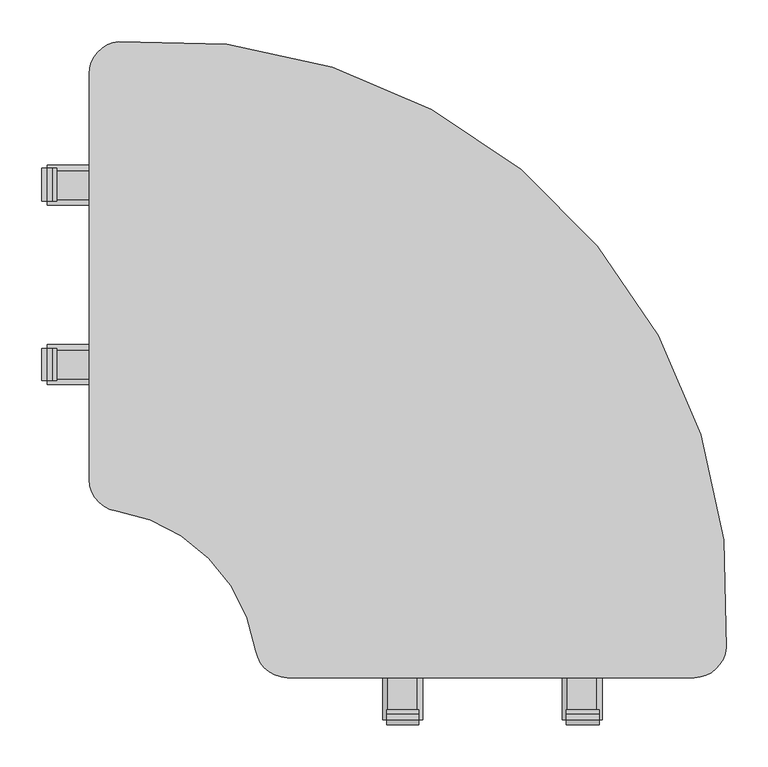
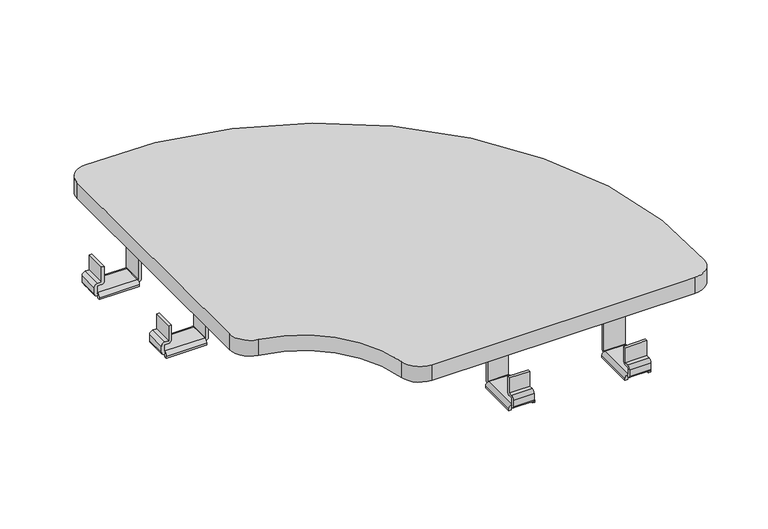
"""IFC4 building model written with IfcOpenShell, lengths in millimetres: furniture geometry, Krug-Solis-Conecting_Top-Corner : SOL4-LKCRR90."""

from ifc_helpers import new_model, si_unit, point, frame, frame_2d, origin, place, context, project, spatial, polyline, circle_curve, trimmed, segment, composite_curve, outline, extrude, source, transform, mapped, element, save


def furniture_27ac3e44(model_context):
    return source(origin(), model_context, "Body", "SweptSolid", [
        extrude(outline(composite_curve([segment(trimmed(circle_curve(frame_2d((-290.2546124, 392.0168643)), 38.1), [point((-328.3546124, 392.0168643))], [point((-293.0372477, 430.0151135))], False, "CARTESIAN"), True, "CONTINUOUS"), segment(trimmed(circle_curve(frame_2d((-243.6420186, -244.5009685)), 676.3222853), [point((-293.0372477, 430.0151135))], [point((430.9401025, -292.9859709))], False, "CARTESIAN"), True, "CONTINUOUS"), segment(trimmed(circle_curve(frame_2d((392.9381331, -290.2546124)), 38.1), [point((430.9401025, -292.9859709))], [point((392.9381331, -328.3546124))], False, "CARTESIAN"), True, "CONTINUOUS"), segment(polyline([(392.9381331, -328.3546124), (-91.9505063, -328.3546124)]), True, "CONTINUOUS"), segment(trimmed(circle_curve(frame_2d((-91.9505063, -290.2546124)), 38.1), [point((-91.9505063, -328.3546124))], [point((-129.5651354, -296.3167633))], False, "CARTESIAN"), True, "CONTINUOUS"), segment(trimmed(circle_curve(frame_2d((-328.3546124, -328.3546124)), 201.3546124), [point((-129.5651354, -296.3167633))], [point((-296.3167633, -129.5651354))], True, "CARTESIAN"), True, "CONTINUOUS"), segment(trimmed(circle_curve(frame_2d((-290.2546124, -91.9505063)), 38.1), [point((-296.3167633, -129.5651354))], [point((-328.3546124, -91.9505063))], False, "CARTESIAN"), True, "CONTINUOUS"), segment(polyline([(-328.3546124, -91.9505063), (-328.3546124, 392.0168643)]), True, "CONTINUOUS")], self_intersect=False)), frame((0.0, 0.0, 386.08), z_axis=(0.0, 0.0, 1.0), x_axis=(1.0, 0.0, 0.0)), (0.0, 0.0, 1.0), 30.48),
        extrude(outline(composite_curve([segment(polyline([(-371.6990738, 330.5710981), (-371.6990738, 359.808594), (-366.9365734, 359.808594), (-366.9365734, 330.5710984)]), True, "CONTINUOUS"), segment(trimmed(circle_curve(frame_2d((-371.6990738, 330.5710984)), 4.7625003), [point((-366.9365734, 330.5710984))], [point((-371.6990738, 325.8085981))], False, "CARTESIAN"), True, "CONTINUOUS"), segment(polyline([(-371.6990738, 325.8085981), (-379.9365737, 325.8085981), (-379.9365737, 311.8086169), (-378.4365746, 311.8086169), (-378.4365746, 307.2206702), (-379.9365737, 307.2206702)]), True, "CONTINUOUS"), segment(trimmed(circle_curve(frame_2d((-379.9365737, 311.9831705)), 4.7625003), [point((-379.9365737, 307.2206702))], [point((-384.699074, 311.9831705))], False, "CARTESIAN"), True, "CONTINUOUS"), segment(polyline([(-384.699074, 311.9831705), (-384.699074, 324.308617)]), True, "CONTINUOUS"), segment(trimmed(circle_curve(frame_2d((-378.4365929, 324.308617)), 6.2624811), [point((-384.699074, 324.308617))], [point((-378.4365929, 330.5710981))], False, "CARTESIAN"), True, "CONTINUOUS"), segment(polyline([(-378.4365929, 330.5710981), (-371.6990738, 330.5710981)]), True, "CONTINUOUS")], self_intersect=False)), frame((240.1666539, 0.0, 0.0), z_axis=(1.0, 0.0, 0.0), x_axis=(0.0, 1.0, 0.0)), (0.0, 0.0, 1.0), 39.3474212),
        extrude(outline(composite_curve([segment(trimmed(circle_curve(frame_2d((-302.9365744, 311.9831625)), 4.7624923), [point((-298.1740821, 311.9831625))], [point((-302.9365744, 307.2206702))], False, "CARTESIAN"), True, "CONTINUOUS"), segment(polyline([(-302.9365744, 307.2206702), (-304.4365732, 307.2206702), (-304.4365732, 311.8086169), (-302.9365744, 311.8086169), (-302.9365744, 386.08), (-259.3540732, 386.08), (-259.3540732, 381.9661838), (-298.1740821, 381.9661838), (-298.1740821, 311.9831625)]), True, "CONTINUOUS")], self_intersect=False)), frame((240.1666539, 0.0, 0.0), z_axis=(1.0, 0.0, 0.0), x_axis=(0.0, 1.0, 0.0)), (0.0, 0.0, 1.0), 39.3474212),
        extrude(outline(composite_curve([segment(polyline([(322.8298588, 26.1666486), (322.8298588, 64.2666487), (317.4177981, 64.2666487), (317.4177981, 69.0291494), (321.0678055, 69.0291494)]), True, "CONTINUOUS"), segment(trimmed(circle_curve(frame_2d((321.0678055, 62.6791494)), 6.35), [point((321.0678055, 69.0291494))], [point((327.4178055, 62.6791494))], False, "CARTESIAN"), True, "CONTINUOUS"), segment(polyline([(327.4178055, 62.6791494), (327.4178055, 27.7541494)]), True, "CONTINUOUS"), segment(trimmed(circle_curve(frame_2d((321.0678055, 27.7541494)), 6.35), [point((327.4178055, 27.7541494))], [point((321.0678055, 21.4041494))], False, "CARTESIAN"), True, "CONTINUOUS"), segment(polyline([(321.0678055, 21.4041494), (317.4177981, 21.4041494), (317.4177981, 26.1666486), (322.8298588, 26.1666486)]), True, "CONTINUOUS")], self_intersect=False)), frame((0.0, -378.4365746, 0.0), z_axis=(0.0, 1.0, 0.0), x_axis=(0.0, 0.0, 1.0)), (0.0, 0.0, 1.0), 74.0000014),
        extrude(outline(composite_curve([segment(polyline([(307.2206702, 240.1666536), (307.2206702, 278.2666538), (301.8086095, 278.2666538), (301.8086095, 283.0291544), (305.4586169, 283.0291544)]), True, "CONTINUOUS"), segment(trimmed(circle_curve(frame_2d((305.4586169, 276.6791544)), 6.35), [point((305.4586169, 283.0291544))], [point((311.8086169, 276.6791544))], False, "CARTESIAN"), True, "CONTINUOUS"), segment(polyline([(311.8086169, 276.6791544), (311.8086169, 241.7541544)]), True, "CONTINUOUS"), segment(trimmed(circle_curve(frame_2d((305.4586169, 241.7541544)), 6.35), [point((311.8086169, 241.7541544))], [point((305.4586169, 235.4041544))], False, "CARTESIAN"), True, "CONTINUOUS"), segment(polyline([(305.4586169, 235.4041544), (301.8086095, 235.4041544), (301.8086095, 240.1666536), (307.2206702, 240.1666536)]), True, "CONTINUOUS")], self_intersect=False)), frame((0.0, -378.4365746, 0.0), z_axis=(0.0, 1.0, 0.0), x_axis=(0.0, 0.0, 1.0)), (0.0, 0.0, 1.0), 74.0000014),
        extrude(outline(composite_curve([segment(polyline([(-371.6990738, 346.1802867), (-371.6990738, 375.4177826), (-366.9365734, 375.4177826), (-366.9365734, 346.180287)]), True, "CONTINUOUS"), segment(trimmed(circle_curve(frame_2d((-371.6990738, 346.180287)), 4.7625003), [point((-366.9365734, 346.180287))], [point((-371.6990738, 341.4177867))], False, "CARTESIAN"), True, "CONTINUOUS"), segment(polyline([(-371.6990738, 341.4177867), (-379.9365737, 341.4177867), (-379.9365737, 327.4178055), (-378.4365746, 327.4178055), (-378.4365746, 322.8298588), (-379.9365737, 322.8298588)]), True, "CONTINUOUS"), segment(trimmed(circle_curve(frame_2d((-379.9365737, 327.5923591)), 4.7625003), [point((-379.9365737, 322.8298588))], [point((-384.699074, 327.5923591))], False, "CARTESIAN"), True, "CONTINUOUS"), segment(polyline([(-384.699074, 327.5923591), (-384.699074, 339.9178056)]), True, "CONTINUOUS"), segment(trimmed(circle_curve(frame_2d((-378.4365929, 339.9178056)), 6.2624811), [point((-384.699074, 339.9178056))], [point((-378.4365929, 346.1802867))], False, "CARTESIAN"), True, "CONTINUOUS"), segment(polyline([(-378.4365929, 346.1802867), (-371.6990738, 346.1802867)]), True, "CONTINUOUS")], self_intersect=False)), frame((26.1666489, 0.0, 0.0), z_axis=(1.0, 0.0, 0.0), x_axis=(0.0, 1.0, 0.0)), (0.0, 0.0, 1.0), 38.0999998),
        extrude(outline(composite_curve([segment(trimmed(circle_curve(frame_2d((-302.9365744, 327.5923511)), 4.7624923), [point((-298.1740821, 327.5923511))], [point((-302.9365744, 322.8298588))], False, "CARTESIAN"), True, "CONTINUOUS"), segment(polyline([(-302.9365744, 322.8298588), (-304.4365732, 322.8298588), (-304.4365732, 327.4178055), (-302.9365744, 327.4178055), (-302.9365744, 386.08), (-259.3540732, 386.08), (-259.3540732, 381.9661838), (-298.1740821, 381.9661838), (-298.1740821, 327.5923511)]), True, "CONTINUOUS")], self_intersect=False)), frame((26.1666489, 0.0, 0.0), z_axis=(1.0, 0.0, 0.0), x_axis=(0.0, 1.0, 0.0)), (0.0, 0.0, 1.0), 38.0999998),
        extrude(outline(composite_curve([segment(polyline([(330.5710981, -371.6990738), (330.5710981, -378.4365929)]), True, "CONTINUOUS"), segment(trimmed(circle_curve(frame_2d((324.308617, -378.4365929)), 6.2624811), [point((330.5710981, -378.4365929))], [point((324.308617, -384.699074))], False, "CARTESIAN"), True, "CONTINUOUS"), segment(polyline([(324.308617, -384.699074), (311.9831705, -384.699074)]), True, "CONTINUOUS"), segment(trimmed(circle_curve(frame_2d((311.9831705, -379.9365737)), 4.7625003), [point((311.9831705, -384.699074))], [point((307.2206702, -379.9365737))], False, "CARTESIAN"), True, "CONTINUOUS"), segment(polyline([(307.2206702, -379.9365737), (307.2206702, -378.4365746), (311.8086169, -378.4365746), (311.8086169, -379.9365737), (325.8085981, -379.9365737), (325.8085981, -371.6990738)]), True, "CONTINUOUS"), segment(trimmed(circle_curve(frame_2d((330.5710984, -371.6990738)), 4.7625003), [point((325.8085981, -371.6990738))], [point((330.5710984, -366.9365734))], False, "CARTESIAN"), True, "CONTINUOUS"), segment(polyline([(330.5710984, -366.9365734), (359.808594, -366.9365734), (359.808594, -371.6990738), (330.5710981, -371.6990738)]), True, "CONTINUOUS")], self_intersect=False)), frame((0.0, 240.1666539, 0.0), z_axis=(0.0, 1.0, 0.0), x_axis=(0.0, 0.0, 1.0)), (0.0, 0.0, 1.0), 39.3474212),
        extrude(outline(composite_curve([segment(polyline([(311.9831625, -298.1740821), (381.9661838, -298.1740821), (381.9661838, -259.3540732), (386.08, -259.3540732), (386.08, -302.9365744), (311.8086169, -302.9365744), (311.8086169, -304.4365732), (307.2206702, -304.4365732), (307.2206702, -302.9365744)]), True, "CONTINUOUS"), segment(trimmed(circle_curve(frame_2d((311.9831625, -302.9365744)), 4.7624923), [point((307.2206702, -302.9365744))], [point((311.9831625, -298.1740821))], False, "CARTESIAN"), True, "CONTINUOUS")], self_intersect=False)), frame((0.0, 240.1666539, 0.0), z_axis=(0.0, 1.0, 0.0), x_axis=(0.0, 0.0, 1.0)), (0.0, 0.0, 1.0), 39.3474212),
        extrude(outline(composite_curve([segment(polyline([(26.1666492, 322.8298588), (26.1666492, 317.4177981), (21.4041494, 317.4177981), (21.4041494, 321.0678055)]), True, "CONTINUOUS"), segment(trimmed(circle_curve(frame_2d((27.7541494, 321.0678055)), 6.35), [point((21.4041494, 321.0678055))], [point((27.7541494, 327.4178055))], False, "CARTESIAN"), True, "CONTINUOUS"), segment(polyline([(27.7541494, 327.4178055), (62.6791494, 327.4178055)]), True, "CONTINUOUS"), segment(trimmed(circle_curve(frame_2d((62.6791494, 321.0678055)), 6.35), [point((62.6791494, 327.4178055))], [point((69.0291494, 321.0678055))], False, "CARTESIAN"), True, "CONTINUOUS"), segment(polyline([(69.0291494, 321.0678055), (69.0291494, 317.4177981), (64.2666487, 317.4177981), (64.2666487, 322.8298588), (26.1666492, 322.8298588)]), True, "CONTINUOUS")], self_intersect=False)), frame((-378.4365746, 0.0, 0.0), z_axis=(1.0, 0.0, 0.0), x_axis=(0.0, 1.0, 0.0)), (0.0, 0.0, 1.0), 74.0000014),
        extrude(outline(composite_curve([segment(polyline([(240.1666542, 307.2206702), (240.1666542, 301.8086095), (235.4041544, 301.8086095), (235.4041544, 305.4586169)]), True, "CONTINUOUS"), segment(trimmed(circle_curve(frame_2d((241.7541544, 305.4586169)), 6.35), [point((235.4041544, 305.4586169))], [point((241.7541544, 311.8086169))], False, "CARTESIAN"), True, "CONTINUOUS"), segment(polyline([(241.7541544, 311.8086169), (276.6791544, 311.8086169)]), True, "CONTINUOUS"), segment(trimmed(circle_curve(frame_2d((276.6791544, 305.4586169)), 6.35), [point((276.6791544, 311.8086169))], [point((283.0291544, 305.4586169))], False, "CARTESIAN"), True, "CONTINUOUS"), segment(polyline([(283.0291544, 305.4586169), (283.0291544, 301.8086095), (278.2666538, 301.8086095), (278.2666538, 307.2206702), (240.1666542, 307.2206702)]), True, "CONTINUOUS")], self_intersect=False)), frame((-378.4365746, 0.0, 0.0), z_axis=(1.0, 0.0, 0.0), x_axis=(0.0, 1.0, 0.0)), (0.0, 0.0, 1.0), 74.0000014),
        extrude(outline(composite_curve([segment(polyline([(346.1802867, -371.6990738), (346.1802867, -378.4365929)]), True, "CONTINUOUS"), segment(trimmed(circle_curve(frame_2d((339.9178056, -378.4365929)), 6.2624811), [point((346.1802867, -378.4365929))], [point((339.9178056, -384.699074))], False, "CARTESIAN"), True, "CONTINUOUS"), segment(polyline([(339.9178056, -384.699074), (327.5923591, -384.699074)]), True, "CONTINUOUS"), segment(trimmed(circle_curve(frame_2d((327.5923591, -379.9365737)), 4.7625003), [point((327.5923591, -384.699074))], [point((322.8298588, -379.9365737))], False, "CARTESIAN"), True, "CONTINUOUS"), segment(polyline([(322.8298588, -379.9365737), (322.8298588, -378.4365746), (327.4178055, -378.4365746), (327.4178055, -379.9365737), (341.4177867, -379.9365737), (341.4177867, -371.6990738)]), True, "CONTINUOUS"), segment(trimmed(circle_curve(frame_2d((346.180287, -371.6990738)), 4.7625003), [point((341.4177867, -371.6990738))], [point((346.180287, -366.9365734))], False, "CARTESIAN"), True, "CONTINUOUS"), segment(polyline([(346.180287, -366.9365734), (375.4177826, -366.9365734), (375.4177826, -371.6990738), (346.1802867, -371.6990738)]), True, "CONTINUOUS")], self_intersect=False)), frame((0.0, 26.1666489, 0.0), z_axis=(0.0, 1.0, 0.0), x_axis=(0.0, 0.0, 1.0)), (0.0, 0.0, 1.0), 38.0999998),
        extrude(outline(composite_curve([segment(polyline([(327.5923511, -298.1740821), (381.9661838, -298.1740821), (381.9661838, -259.3540732), (386.08, -259.3540732), (386.08, -302.9365744), (327.4178055, -302.9365744), (327.4178055, -304.4365732), (322.8298588, -304.4365732), (322.8298588, -302.9365744)]), True, "CONTINUOUS"), segment(trimmed(circle_curve(frame_2d((327.5923511, -302.9365744)), 4.7624923), [point((322.8298588, -302.9365744))], [point((327.5923511, -298.1740821))], False, "CARTESIAN"), True, "CONTINUOUS")], self_intersect=False)), frame((0.0, 26.1666489, 0.0), z_axis=(0.0, 1.0, 0.0), x_axis=(0.0, 0.0, 1.0)), (0.0, 0.0, 1.0), 38.0999998),
    ])


if __name__ == "__main__":
    model = new_model("IFC4")
    model_context = context("Model", 3, world=origin())
    ifc_project = project(units=[si_unit("LENGTHUNIT", "METRE", prefix="MILLI")], contexts=[model_context])
    site = spatial("IfcSite", under=ifc_project)
    building = spatial("IfcBuilding", under=site)
    placement = place(None, origin())
    furniture_shape = furniture_27ac3e44(model_context)
    element("IfcFurniture", 1, ObjectType="Krug-Solis-Conecting_Top-Corner : SOL4-LKCRR90", at=placement, inside=building, context=model_context, shape_type="MappedRepresentation", body=[
        mapped(furniture_shape, transform((0.0, 0.0, 0.0), x_axis=(1.0, 0.0, 0.0), y_axis=(0.0, 1.0, 0.0), z_axis=(0.0, 0.0, 1.0))),
    ])
    save(model, "model.ifc")
